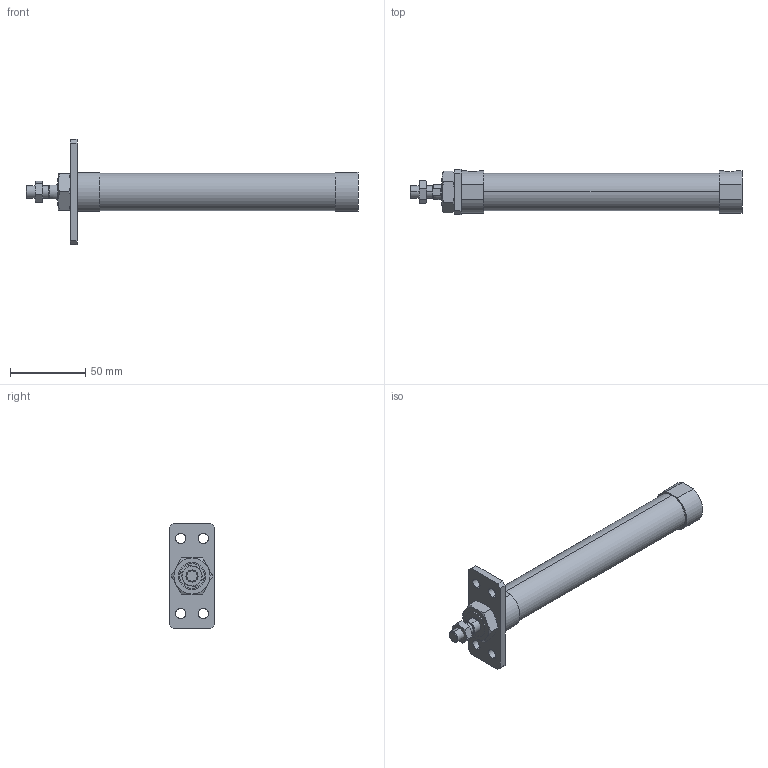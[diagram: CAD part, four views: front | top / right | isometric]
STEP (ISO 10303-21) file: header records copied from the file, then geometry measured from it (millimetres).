
FILE_DESCRIPTION (( 'STEP AP203' ), '1' );
FILE_NAME ('JGND2-20-125-A.STEP', '2016-08-04T02:31:41', ( '' ), ( '' ), 'SwSTEP 2.0', 'SolidWorks 2014', '' );
FILE_SCHEMA (( 'CONFIG_CONTROL_DESIGN' ));
Length unit declared in the file: millimetre
Products named in the file (5): J#2-20-125(P); J#2-20-A; JGND2-20-125-A
Assembly tree (4 placements, depth 2):
  JGND2-20-125-A
    J#2-20-125(P)
    (unnamed)
    (unnamed)
    J#2-20-A
Bounding box: 221 x 30 x 70 mm (x, y, z)
Volume: 108415.4 mm3; surface area: 25380.6 mm2
Topology: 4 solids, 4 shells, 104 faces, 236 edges, 148 vertices
Faces by surface type: plane 44, cylinder 32, torus 24, cone 4
Entity records: 3803 total; most frequent: CARTESIAN_POINT 951, DIRECTION 494, ORIENTED_EDGE 472, EDGE_CURVE 236, AXIS2_PLACEMENT_3D 203, VERTEX_POINT 148, EDGE_LOOP 126, ADVANCED_FACE 104
